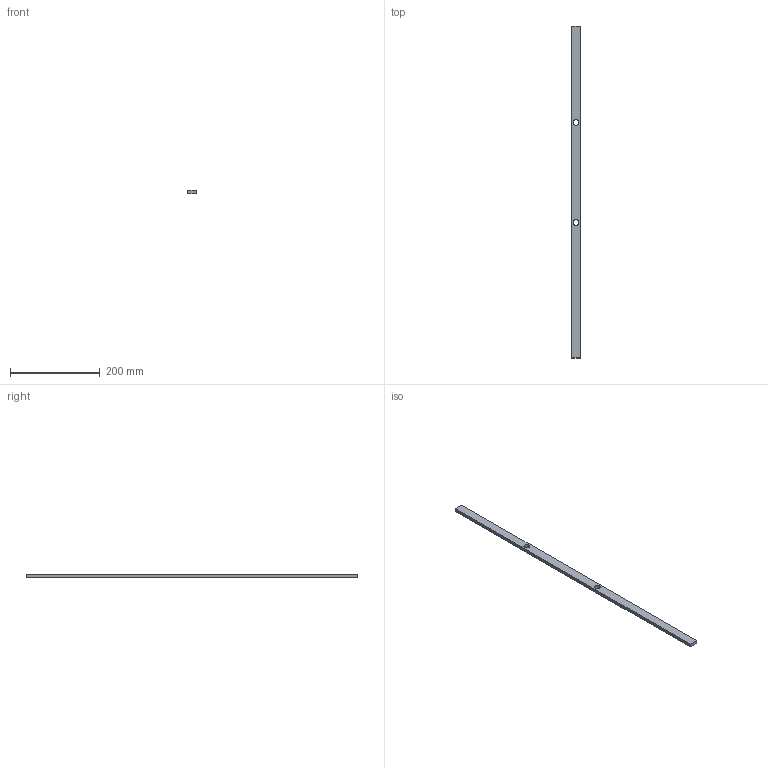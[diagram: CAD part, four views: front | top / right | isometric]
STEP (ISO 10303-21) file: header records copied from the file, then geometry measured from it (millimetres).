
FILE_DESCRIPTION(('Open CASCADE Model'),'2;1');
FILE_NAME('Open CASCADE Shape Model','2026-10-15T15:10:05',('Author'),( 'Open CASCADE'),'Open CASCADE STEP processor 8.0','Open CASCADE 8.0' ,'Unknown');
FILE_SCHEMA(('AUTOMOTIVE_DESIGN { 1 0 10303 214 1 1 1 1 }'));
Length unit declared in the file: millimetre
Products named in the file (1): MG09_UHMW_LADO_2_P05 113
Bounding box: 20 x 740 x 7.5 mm (x, y, z)
Volume: 109009 mm3; surface area: 41081.7 mm2
Topology: 1 solids, 1 shells, 8 faces, 18 edges, 12 vertices
Faces by surface type: plane 6, cylinder 2
Full cylindrical faces by diameter (mm): 13 x2
Entity records: 478 total; most frequent: DIRECTION 76, CARTESIAN_POINT 75, LINE 46, VECTOR 46, ORIENTED_EDGE 36, PCURVE 36, DEFINITIONAL_REPRESENTATION 36, EDGE_CURVE 18
